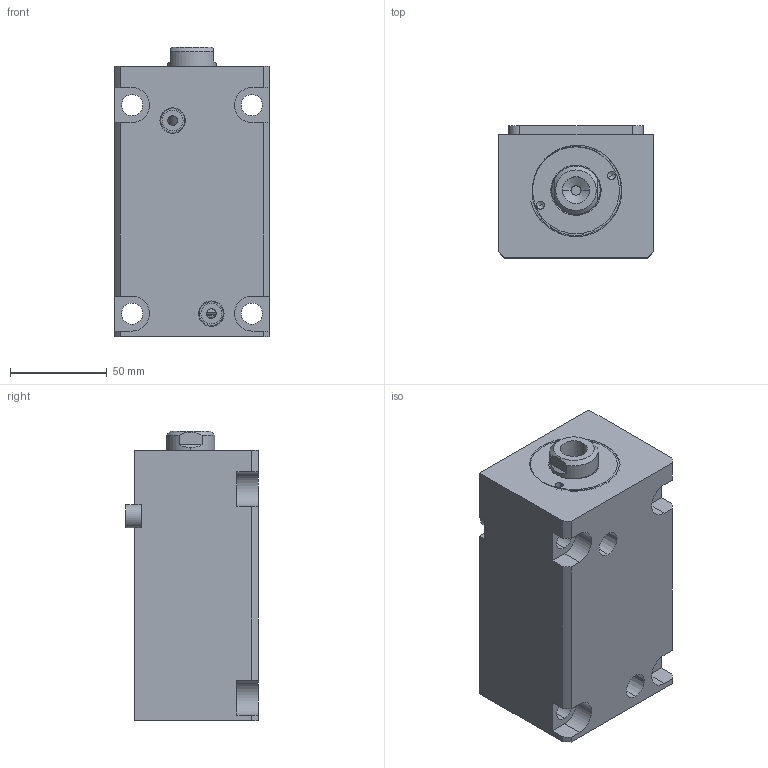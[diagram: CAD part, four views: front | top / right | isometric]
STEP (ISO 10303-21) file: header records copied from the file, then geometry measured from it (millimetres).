
FILE_DESCRIPTION (( 'STEP AP214' ), '1' );
FILE_NAME ('chtb-la40x85n_asm.STEP', '2018-05-31T01:55:47', ( 'Windows' ), ( 'Microsoft' ), 'SwSTEP 2.0', 'SolidWorks 2015', '' );
FILE_SCHEMA (( 'AUTOMOTIVE_DESIGN' ));
Length unit declared in the file: millimetre
Products named in the file (5): CHTB-LA40PJ; CHTB-SD40QG; CHTB-SD40X85NHSG; CHTB-LA40X85NBT; chtb-la40x85n_asm
Assembly tree (4 placements, depth 2):
  chtb-la40x85n_asm
    CHTB-LA40X85NBT
    CHTB-SD40X85NHSG
    CHTB-SD40QG
    CHTB-LA40PJ
Bounding box: 80 x 68.5 x 150 mm (x, y, z)
Volume: 612189.5 mm3; surface area: 107203.5 mm2
Topology: 4 solids, 4 shells, 160 faces, 430 edges, 286 vertices
Faces by surface type: cylinder 73, plane 48, bspline 14, cone 13, torus 12
Entity records: 10258 total; most frequent: CARTESIAN_POINT 6106, ORIENTED_EDGE 848, DIRECTION 787, EDGE_CURVE 424, AXIS2_PLACEMENT_3D 314, VERTEX_POINT 286, EDGE_LOOP 188, CIRCLE 161
